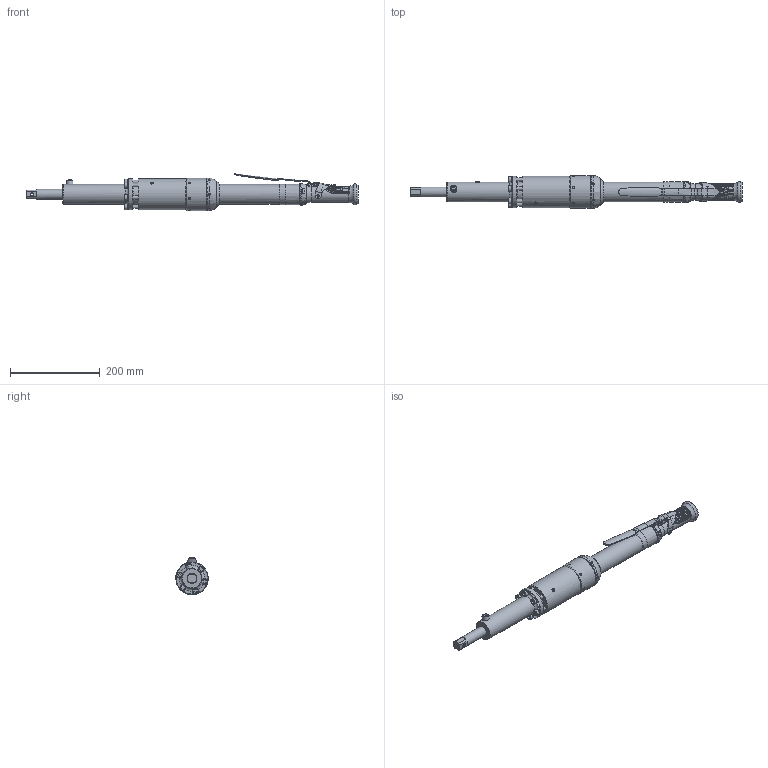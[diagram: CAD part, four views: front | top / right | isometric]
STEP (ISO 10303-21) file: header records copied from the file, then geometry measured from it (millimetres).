
FILE_DESCRIPTION(/* description */ (''),/* implementation_level */ '2;1');
FILE_NAME(/* name */ '10559656_A_SH02',/* time_stamp */ '2005-11-30T14:05:02+06:00',/* author */ (''),/* organization */ (''),/* preprocessor_version */ 'ST-DEVELOPER v9',/* originating_system */ 'EDS PLM SOLUTIONS - UNIGRAPHICS NX 2.0',/* authorisation */ '');
FILE_SCHEMA (('CONFIG_CONTROL_DESIGN'));
Length unit declared in the file: millimetre
Products named in the file (1): 10559656_A_SH02
Bounding box: 740.89 x 72.39 x 82.89 mm (x, y, z)
Surface area: 145441.4 mm2
Topology: 1 solids, 2 shells, 641 faces, 1661 edges, 1067 vertices
Faces by surface type: plane 206, cylinder 198, cone 109, torus 65, bspline 48, extrusion 14, sphere 1
Full cylindrical faces by diameter (mm): 3.175 x1, 4.978 x12, 5.112 x2, 5.41 x1, 5.588 x1, 6.54 x1, 6.731 x1, 6.858 x2, 7.794 x12, 9.652 x1, 12.675 x6, 14.275 x1, 22.187 x1, 35.052 x1, 36.068 x1, 41.758 x1, 44.425 x1, 44.45 x2, 48.514 x1, 55.88 x1, 66.548 x1, 69.85 x2, 72.39 x2
Entity records: 24892 total; most frequent: CARTESIAN_POINT 10865, ORIENTED_EDGE 2968, DIRECTION 2600, EDGE_CURVE 1484, AXIS2_PLACEMENT_3D 1097, VERTEX_POINT 998, EDGE_LOOP 832, ADVANCED_FACE 641
